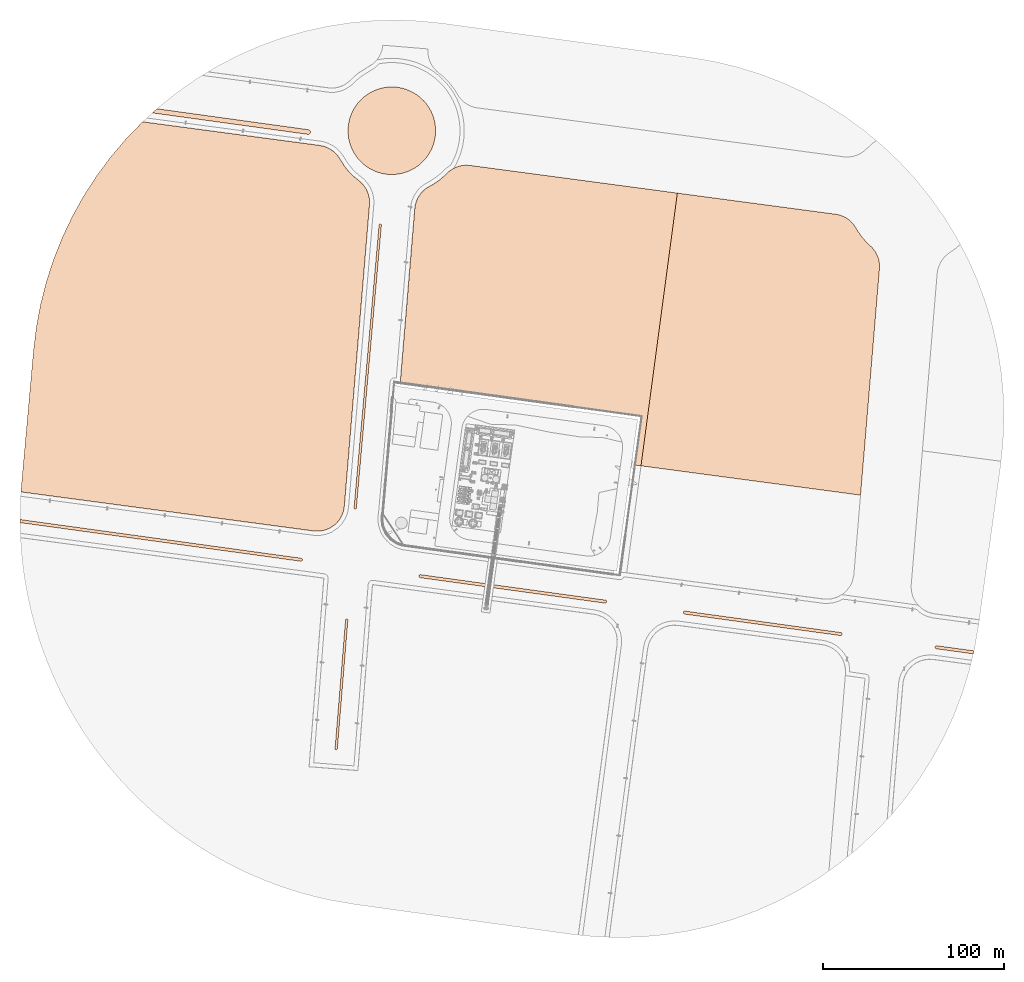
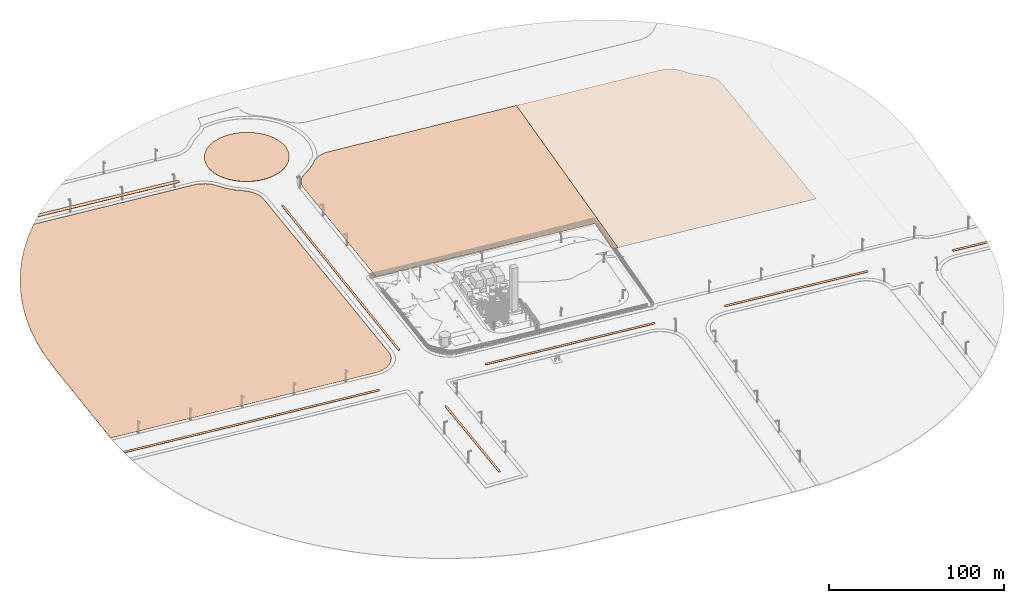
# Not in any storey, part 74 of 75: 4 geographic elements.
"""IFC4 model written with IfcOpenShell, lengths in metres."""

from ifc_helpers import new_model, si_unit, direction, origin, origin_with_axes, place, context, subcontext, project, spatial, triangles, element, save


model = new_model("IFC4")

# Units and contexts
model_context = context("Model", 3, precision=1e-05, world=origin_with_axes(), true_north=direction((0.0, 1.0)))
body_context = subcontext(model_context, "Body", "Model", "MODEL_VIEW")
ifc_project = project(units=[si_unit("AREAUNIT", "SQUARE_METRE"), si_unit("VOLUMEUNIT", "CUBIC_METRE"), si_unit("LENGTHUNIT", "METRE")], contexts=[model_context])

# Site
site_placement = place(None, origin_with_axes())
site = spatial("IfcSite", under=ifc_project, at=site_placement, Name="Parcela industrial Jinhong")

# Geographic elements
geographic_element_1_placement = place(None, origin())
element("IfcGeographicElement", 1, at=geographic_element_1_placement, inside=site, Name="Glorieta e isletas divisorias · aproximadas", ObjectType="Glorieta e isletas divisorias · aproximadas", PredefinedType="USERDEFINED", context=body_context, shape_type="Tessellation", body=[
    triangles([(-31.552922, -93.647842, -0.280071), (-31.079328, -93.495515, -0.274279), (-31.300975, -93.61878, -0.277128), (-31.995515, -93.420672, -0.284498), (-31.796812, -93.578275, -0.282659), (-32.11878, -93.199025, -0.285308), (-25.837415, -21.364691, -0.022205), (-26.347842, -21.947078, -0.029563), (-26.167215, -21.548104, -0.026445), (-26.304584, -21.761298, -0.028576), (-25.131937, -21.684082, -0.015034), (-25.461298, -21.395416, -0.018009), (-25.248104, -21.532785, -0.015952), (-30.921725, -93.296812, -0.271956), (-32.147842, -92.947078, -0.284967), (-30.852158, -93.052922, -0.270515), (-25.052158, -22.052922, -0.015111), (-31.552922, -93.647842, -0.060071), (-31.079328, -93.495515, -0.054279), (-31.300975, -93.61878, -0.057128), (-31.995515, -93.420672, -0.064498), (-31.796812, -93.578275, -0.062659), (-32.11878, -93.199025, -0.065308), (-25.837415, -21.364691, 0.197795), (-26.347842, -21.947078, 0.190437), (-26.167215, -21.548104, 0.193555), (-26.304584, -21.761298, 0.191424), (-25.131937, -21.684082, 0.204966), (-25.461298, -21.395416, 0.201991), (-25.248104, -21.532785, 0.204048), (-30.921725, -93.296812, -0.051956), (-32.147842, -92.947078, -0.064967), (-30.852158, -93.052922, -0.050515), (-25.052158, -22.052922, 0.204889)], [[1, 2, 3], [4, 1, 5], [1, 4, 6], [7, 8, 9], [8, 10, 9], [11, 7, 12], [12, 13, 11], [14, 15, 16], [1, 14, 2], [15, 1, 6], [7, 17, 8], [17, 7, 11], [16, 15, 17], [14, 1, 15], [8, 17, 15], [20, 19, 18], [22, 18, 21], [23, 21, 18], [26, 25, 24], [26, 27, 25], [29, 24, 28], [28, 30, 29], [33, 32, 31], [19, 31, 18], [23, 18, 32], [25, 34, 24], [28, 24, 34], [34, 32, 33], [32, 18, 31], [32, 34, 25], [20, 18, 3], [3, 18, 1], [19, 20, 2], [2, 20, 3], [18, 22, 1], [1, 22, 5], [22, 21, 5], [5, 21, 4], [21, 23, 4], [4, 23, 6], [26, 24, 9], [9, 24, 7], [25, 27, 8], [8, 27, 10], [27, 26, 10], [10, 26, 9], [24, 29, 7], [7, 29, 12], [30, 28, 13], [13, 28, 11], [29, 30, 12], [12, 30, 13], [31, 19, 14], [14, 19, 2], [23, 32, 6], [6, 32, 15], [32, 25, 15], [15, 25, 8], [33, 31, 16], [16, 31, 14], [28, 34, 11], [11, 34, 17], [34, 33, 17], [17, 33, 16]], closed=True),
    triangles([(299.266416, -36.580635, 3.634241), (299.784884, -36.187671, 3.641186), (300.115951, -36.167946, 3.645003), (320.702515, -39.002716, 3.871547), (320.304487, -40.663949, 3.862588), (299.322588, -37.523433, 3.632364), (299.884049, -37.852054, 3.637872), (299.570635, -37.743584, 3.634598), (299.177671, -37.225116, 3.631512), (299.157946, -36.894049, 3.632171), (299.486567, -36.332588, 3.637406), (299.266416, -36.580635, 3.854241), (299.784884, -36.187671, 3.861186), (300.115951, -36.167946, 3.865003), (320.702515, -39.002716, 4.091547), (320.304487, -40.663949, 4.082588), (299.322588, -37.523433, 3.852364), (299.884049, -37.852054, 3.857872), (299.570635, -37.743584, 3.854598), (299.177671, -37.225116, 3.851512), (299.157946, -36.894049, 3.852171), (299.486567, -36.332588, 3.857406)], [[1, 2, 3], [3, 4, 5], [6, 7, 8], [7, 6, 9], [3, 10, 1], [2, 1, 11], [7, 3, 5], [7, 9, 10], [10, 3, 7], [14, 13, 12], [16, 15, 14], [19, 18, 17], [20, 17, 18], [12, 21, 14], [22, 12, 13], [16, 14, 18], [21, 20, 18], [18, 14, 21], [13, 14, 2], [2, 14, 3], [14, 15, 3], [3, 15, 4], [15, 16, 4], [4, 16, 5], [16, 18, 5], [5, 18, 7], [19, 17, 8], [8, 17, 6], [18, 19, 7], [7, 19, 8], [17, 20, 6], [6, 20, 9], [21, 12, 10], [10, 12, 1], [20, 21, 9], [9, 21, 10], [12, 22, 1], [1, 22, 11], [22, 13, 11], [11, 13, 2]], closed=True),
    triangles([(161.115951, -17.027646, 2.115381), (160.322588, -18.383133, 2.102742), (160.486567, -17.192288, 2.107785), (160.884049, -18.711754, 2.10825), (160.570635, -18.603284, 2.104976), (160.177671, -18.084816, 2.10189), (160.157946, -17.753749, 2.102549), (160.266416, -17.440335, 2.104619), (160.784884, -17.047371, 2.111564), (247.115951, -28.869846, 3.061766), (247.842054, -29.827851, 3.067467), (247.444562, -30.436375, 3.061323), (247.623825, -29.134542, 3.066835), (247.764561, -29.340489, 3.067886), (247.839454, -29.578423, 3.068103), (247.772137, -30.067294, 3.066033), (247.635724, -30.27613, 3.063924), (246.884049, -30.553954, 3.054635), (247.133477, -30.551354, 3.057479), (247.429365, -28.978316, 3.065041), (161.115951, -17.027646, 2.335381), (160.322588, -18.383133, 2.322742), (160.486567, -17.192288, 2.327785), (160.884049, -18.711754, 2.32825), (160.570635, -18.603284, 2.324976), (160.177671, -18.084816, 2.32189), (160.157946, -17.753749, 2.322549), (160.266416, -17.440335, 2.324619), (160.784884, -17.047371, 2.331564), (247.115951, -28.869846, 3.281766), (247.842054, -29.827851, 3.287467), (247.444562, -30.436375, 3.281323), (247.623825, -29.134542, 3.286835), (247.764561, -29.340489, 3.287886), (247.839454, -29.578423, 3.288103), (247.772137, -30.067294, 3.286033), (247.635724, -30.27613, 3.283924), (246.884049, -30.553954, 3.274635), (247.133477, -30.551354, 3.277479), (247.429365, -28.978316, 3.285041)], [[1, 2, 3], [4, 5, 2], [2, 6, 7], [7, 8, 3], [3, 9, 1], [10, 11, 12], [11, 13, 14], [14, 15, 11], [11, 16, 17], [18, 12, 19], [2, 1, 4], [2, 7, 3], [4, 1, 10], [13, 11, 20], [12, 11, 17], [4, 10, 18], [11, 10, 20], [12, 18, 10], [23, 22, 21], [22, 25, 24], [27, 26, 22], [23, 28, 27], [21, 29, 23], [32, 31, 30], [34, 33, 31], [31, 35, 34], [37, 36, 31], [39, 32, 38], [24, 21, 22], [23, 27, 22], [30, 21, 24], [40, 31, 33], [37, 31, 32], [38, 30, 24], [40, 30, 31], [30, 38, 32], [25, 22, 5], [5, 22, 2], [24, 25, 4], [4, 25, 5], [22, 26, 2], [2, 26, 6], [26, 27, 6], [6, 27, 7], [28, 23, 8], [8, 23, 3], [27, 28, 7], [7, 28, 8], [29, 21, 9], [9, 21, 1], [23, 29, 3], [3, 29, 9], [21, 30, 1], [1, 30, 10], [33, 34, 13], [13, 34, 14], [35, 31, 15], [15, 31, 11], [34, 35, 14], [14, 35, 15], [31, 36, 11], [11, 36, 16], [37, 32, 17], [17, 32, 12], [36, 37, 16], [16, 37, 17], [38, 24, 18], [18, 24, 4], [32, 39, 12], [12, 39, 19], [39, 38, 19], [19, 38, 18], [30, 40, 10], [10, 40, 20], [40, 33, 20], [20, 33, 13]], closed=True),
    triangles([(14.570635, 1.500916, 0.498323), (14.486567, 2.911912, 0.501132), (14.884049, 1.392446, 0.501597), (14.177671, 2.019384, 0.495237), (14.322588, 1.721067, 0.496089), (14.266416, 2.663865, 0.497966), (14.157946, 2.350451, 0.495896), (14.784884, 3.056829, 0.504911), (15.115951, 3.076554, 0.508728), (117.623825, -11.233542, 1.636254), (117.115951, -10.968846, 1.631184), (117.429365, -11.077316, 1.634459), (117.848495, -11.760346, 1.637403), (117.797284, -11.516218, 1.637472), (117.826634, -12.008828, 1.636491), (117.371411, -12.575461, 1.629803), (117.733584, -12.240265, 1.634816), (117.577358, -12.434725, 1.63252), (117.133477, -12.650354, 1.626897), (116.884049, -12.652954, 1.624054), (14.570635, 1.500916, 0.718323), (14.486567, 2.911912, 0.721132), (14.884049, 1.392446, 0.721597), (14.177671, 2.019384, 0.715237), (14.322588, 1.721067, 0.716089), (14.266416, 2.663865, 0.717966), (14.157946, 2.350451, 0.715896), (14.784884, 3.056829, 0.724911), (15.115951, 3.076554, 0.728728), (117.623825, -11.233542, 1.856254), (117.115951, -10.968846, 1.851184), (117.429365, -11.077316, 1.854459), (117.848495, -11.760346, 1.857403), (117.797284, -11.516218, 1.857472), (117.826634, -12.008828, 1.856491), (117.371411, -12.575461, 1.849803), (117.733584, -12.240265, 1.854816), (117.577358, -12.434725, 1.85252), (117.133477, -12.650354, 1.846897), (116.884049, -12.652954, 1.844054)], [[1, 2, 3], [4, 1, 5], [6, 4, 7], [4, 6, 2], [2, 8, 9], [10, 11, 12], [13, 10, 14], [10, 13, 15], [16, 17, 18], [17, 16, 19], [9, 3, 2], [1, 4, 2], [20, 9, 11], [17, 10, 15], [10, 17, 19], [9, 20, 3], [11, 10, 20], [10, 19, 20], [23, 22, 21], [25, 21, 24], [27, 24, 26], [22, 26, 24], [29, 28, 22], [32, 31, 30], [34, 30, 33], [35, 33, 30], [38, 37, 36], [39, 36, 37], [22, 23, 29], [22, 24, 21], [31, 29, 40], [35, 30, 37], [39, 37, 30], [23, 40, 29], [40, 30, 31], [40, 39, 30], [23, 21, 3], [3, 21, 1], [21, 25, 1], [1, 25, 5], [25, 24, 5], [5, 24, 4], [26, 22, 6], [6, 22, 2], [24, 27, 4], [4, 27, 7], [27, 26, 7], [7, 26, 6], [22, 28, 2], [2, 28, 8], [28, 29, 8], [8, 29, 9], [29, 31, 9], [9, 31, 11], [32, 30, 12], [12, 30, 10], [31, 32, 11], [11, 32, 12], [30, 34, 10], [10, 34, 14], [34, 33, 14], [14, 33, 13], [33, 35, 13], [13, 35, 15], [35, 37, 15], [15, 37, 17], [38, 36, 18], [18, 36, 16], [37, 38, 17], [17, 38, 18], [36, 39, 16], [16, 39, 19], [40, 23, 20], [20, 23, 3], [39, 40, 19], [19, 40, 20]], closed=True),
    triangles([(-50.884049, 12.164754, -0.217567), (-51.115951, 10.480646, -0.224698), (-206.091964, 31.820843, -1.930127), (-206.095411, 33.537359, -1.925586), (-50.570635, 12.056284, -0.214292), (-50.376175, 11.900058, -0.212498), (-50.235439, 11.694111, -0.211447), (-50.160546, 11.456177, -0.21123), (-50.173366, 11.124772, -0.21226), (-50.266416, 10.893335, -0.213936), (-50.422642, 10.698875, -0.216231), (-50.628589, 10.558139, -0.218949), (-50.866523, 10.483246, -0.221854), (-50.884049, 12.164754, 0.002433), (-51.115951, 10.480646, -0.004698), (-206.091964, 31.820843, -1.710127), (-206.095411, 33.537359, -1.705586), (-50.570635, 12.056284, 0.005708), (-50.376175, 11.900058, 0.007502), (-50.235439, 11.694111, 0.008553), (-50.160546, 11.456177, 0.00877), (-50.173366, 11.124772, 0.00774), (-50.266416, 10.893335, 0.006064), (-50.422642, 10.698875, 0.003769), (-50.628589, 10.558139, 0.001051), (-50.866523, 10.483246, -0.001854)], [[1, 2, 3], [3, 4, 1], [1, 5, 6], [6, 7, 8], [8, 9, 10], [10, 11, 12], [2, 12, 13], [12, 6, 8], [12, 8, 10], [6, 12, 2], [6, 2, 1], [16, 15, 14], [14, 17, 16], [19, 18, 14], [21, 20, 19], [23, 22, 21], [25, 24, 23], [26, 25, 15], [21, 19, 25], [23, 21, 25], [15, 25, 19], [14, 15, 19], [15, 16, 2], [2, 16, 3], [17, 14, 4], [4, 14, 1], [16, 17, 3], [3, 17, 4], [14, 18, 1], [1, 18, 5], [18, 19, 5], [5, 19, 6], [19, 20, 6], [6, 20, 7], [20, 21, 7], [7, 21, 8], [21, 22, 8], [8, 22, 9], [22, 23, 9], [9, 23, 10], [23, 24, 10], [10, 24, 11], [24, 25, 11], [11, 25, 12], [26, 15, 13], [13, 15, 2], [25, 26, 12], [12, 26, 13]], closed=True),
    triangles([(-21.057276, 39.352528, 0.194164), (-20.582669, 39.501668, 0.199959), (-20.80514, 39.379896, 0.197104), (-21.498332, 39.582669, 0.189762), (-21.300693, 39.423733, 0.191586), (-21.647472, 40.057276, 0.189333), (-21.620104, 39.80514, 0.188971), (-7.454703, 196.598019, 0.768423), (-6.552528, 195.942724, 0.776933), (-7.664167, 196.455027, 0.765659), (-7.847472, 196.057276, 0.762513), (-7.776267, 196.300693, 0.763972), (-7.27014, 196.646205, 0.77065), (-6.629826, 196.312092, 0.77704), (-6.899307, 196.576267, 0.77468), (-20.352528, 39.942724, 0.203753), (-20.423733, 39.699307, 0.202294), (-21.057276, 39.352528, 0.414164), (-20.582669, 39.501668, 0.419959), (-20.80514, 39.379896, 0.417104), (-21.498332, 39.582669, 0.409762), (-21.300693, 39.423733, 0.411586), (-21.647472, 40.057276, 0.409333), (-21.620104, 39.80514, 0.408971), (-7.454703, 196.598019, 0.988423), (-6.552528, 195.942724, 0.996933), (-7.664167, 196.455027, 0.985659), (-7.847472, 196.057276, 0.982513), (-7.776267, 196.300693, 0.983972), (-7.27014, 196.646205, 0.99065), (-6.629826, 196.312092, 0.99704), (-6.899307, 196.576267, 0.99468), (-20.352528, 39.942724, 0.423753), (-20.423733, 39.699307, 0.422294)], [[1, 2, 3], [4, 1, 5], [6, 4, 7], [8, 9, 10], [11, 12, 10], [9, 13, 14], [13, 15, 14], [1, 16, 17], [1, 17, 2], [4, 6, 1], [10, 9, 11], [13, 9, 8], [11, 16, 6], [16, 1, 6], [16, 11, 9], [20, 19, 18], [22, 18, 21], [24, 21, 23], [27, 26, 25], [27, 29, 28], [31, 30, 26], [31, 32, 30], [34, 33, 18], [19, 34, 18], [18, 23, 21], [28, 26, 27], [25, 26, 30], [23, 33, 28], [23, 18, 33], [26, 28, 33], [20, 18, 3], [3, 18, 1], [19, 20, 2], [2, 20, 3], [18, 22, 1], [1, 22, 5], [22, 21, 5], [5, 21, 4], [21, 24, 4], [4, 24, 7], [24, 23, 7], [7, 23, 6], [27, 25, 10], [10, 25, 8], [23, 28, 6], [6, 28, 11], [29, 27, 12], [12, 27, 10], [28, 29, 11], [11, 29, 12], [25, 30, 8], [8, 30, 13], [31, 26, 14], [14, 26, 9], [30, 32, 13], [13, 32, 15], [32, 31, 15], [15, 31, 14], [26, 33, 9], [9, 33, 16], [34, 19, 17], [17, 19, 2], [33, 34, 16], [16, 34, 17]], closed=True),
    triangles([(17.394523, 232.243831, 1.146118), (11.979242, 227.649307, 1.072276), (9.903386, 226.49568, 1.045592), (7.724451, 225.551077, 1.018293), (5.463421, 224.824595, 0.990642), (3.14207, 224.323231, 0.962906), (0.782756, 224.051814, 0.935352), (-8.578835, 225.284291, 0.832181), (-1.591802, 224.012957, 0.908245), (-3.958734, 224.207034, 0.881846), (-6.295246, 224.632177, 0.85641), (-10.78751, 226.157095, 0.809394), (-12.9, 227.242185, 0.788266), (-14.89596, 228.52911, 0.769002), (-16.756169, 230.005477, 0.751787), (-18.462711, 231.657066, 0.736787), (-19.999151, 233.467973, 0.724147), (-23.448923, 239.675549, 0.70148), (-21.350693, 235.420758, 0.713988), (-22.50432, 237.496614, 0.706408), (-24.676769, 244.25793, 0.699744), (-24.175405, 241.936579, 0.699252), (-24.987043, 248.991802, 0.708847), (-24.948186, 246.617244, 0.702953), (-24.367823, 253.695246, 0.728439), (-24.792966, 251.358734, 0.717369), (-21.757815, 260.3, 0.775742), (-23.715709, 255.978835, 0.741948), (-22.842905, 258.18751, 0.757766), (-20.47089, 262.29596, 0.795703), (-18.994523, 264.156169, 0.817456), (-17.342934, 265.862711, 0.840791), (-15.532027, 267.399151, 0.865484), (-13.579242, 268.750693, 0.891297), (-11.503386, 269.90432, 0.917982), (-4.74207, 272.076769, 1.000667), (-9.324451, 270.848923, 0.945281), (-7.063421, 271.575405, 0.972931), (-0.008198, 272.387043, 1.055328), (4.695246, 271.767823, 1.107163), (-2.382756, 272.348186, 1.028221), (2.358734, 272.192966, 1.081727), (11.3, 269.157815, 1.175307), (6.978835, 271.115709, 1.131392), (9.18751, 270.242905, 1.15418), (13.29596, 267.87089, 1.194571), (15.156169, 266.394523, 1.211786), (16.862711, 264.742934, 1.226786), (18.399151, 262.932027, 1.239426), (21.848923, 256.724451, 1.262093), (19.750693, 260.979242, 1.249585), (20.90432, 258.903386, 1.257165), (23.387043, 247.408198, 1.254726), (23.076769, 252.14207, 1.263829), (23.348186, 249.782756, 1.26062), (22.767823, 242.704754, 1.235135), (23.192966, 245.041266, 1.246204), (21.242905, 238.21249, 1.205807), (22.115709, 240.421165, 1.221626), (20.157815, 236.1, 1.187831), (18.87089, 234.10404, 1.16787), (15.742934, 230.537289, 1.122782), (13.932027, 229.000849, 1.098089), (22.575405, 254.463421, 1.264322), (17.394523, 232.243831, 1.366118), (11.979242, 227.649307, 1.292276), (9.903386, 226.49568, 1.265592), (7.724451, 225.551077, 1.238293), (5.463421, 224.824595, 1.210642), (3.14207, 224.323231, 1.182906), (0.782756, 224.051814, 1.155352), (-8.578835, 225.284291, 1.052181), (-1.591802, 224.012957, 1.128245), (-3.958734, 224.207034, 1.101846), (-6.295246, 224.632177, 1.07641), (-10.78751, 226.157095, 1.029394), (-12.9, 227.242185, 1.008266), (-14.89596, 228.52911, 0.989002), (-16.756169, 230.005477, 0.971787), (-18.462711, 231.657066, 0.956787), (-19.999151, 233.467973, 0.944147), (-23.448923, 239.675549, 0.92148), (-21.350693, 235.420758, 0.933988), (-22.50432, 237.496614, 0.926408), (-24.676769, 244.25793, 0.919744), (-24.175405, 241.936579, 0.919252), (-24.987043, 248.991802, 0.928847), (-24.948186, 246.617244, 0.922953), (-24.367823, 253.695246, 0.948439), (-24.792966, 251.358734, 0.937369), (-21.757815, 260.3, 0.995742), (-23.715709, 255.978835, 0.961948), (-22.842905, 258.18751, 0.977766), (-20.47089, 262.29596, 1.015703), (-18.994523, 264.156169, 1.037456), (-17.342934, 265.862711, 1.060791), (-15.532027, 267.399151, 1.085484), (-13.579242, 268.750693, 1.111297), (-11.503386, 269.90432, 1.137982), (-4.74207, 272.076769, 1.220667), (-9.324451, 270.848923, 1.165281), (-7.063421, 271.575405, 1.192931), (-0.008198, 272.387043, 1.275328), (4.695246, 271.767823, 1.327163), (-2.382756, 272.348186, 1.248221), (2.358734, 272.192966, 1.301727), (11.3, 269.157815, 1.395307), (6.978835, 271.115709, 1.351392), (9.18751, 270.242905, 1.37418), (13.29596, 267.87089, 1.414571), (15.156169, 266.394523, 1.431786), (16.862711, 264.742934, 1.446786), (18.399151, 262.932027, 1.459426), (21.848923, 256.724451, 1.482093), (19.750693, 260.979242, 1.469585), (20.90432, 258.903386, 1.477165), (23.387043, 247.408198, 1.474726), (23.076769, 252.14207, 1.483829), (23.348186, 249.782756, 1.48062), (22.767823, 242.704754, 1.455135), (23.192966, 245.041266, 1.466204), (21.242905, 238.21249, 1.425807), (22.115709, 240.421165, 1.441626), (20.157815, 236.1, 1.407831), (18.87089, 234.10404, 1.38787), (15.742934, 230.537289, 1.342782), (13.932027, 229.000849, 1.318089), (22.575405, 254.463421, 1.484322)], [[1, 2, 3], [3, 4, 5], [5, 6, 7], [8, 9, 10], [10, 11, 8], [8, 12, 13], [13, 14, 15], [13, 16, 17], [18, 19, 20], [21, 18, 22], [23, 21, 24], [25, 23, 26], [27, 25, 28], [28, 29, 27], [27, 30, 31], [31, 32, 33], [33, 34, 35], [36, 37, 38], [39, 40, 41], [40, 39, 42], [43, 40, 44], [44, 45, 43], [43, 46, 47], [43, 48, 49], [50, 51, 52], [53, 49, 50], [53, 54, 55], [56, 53, 57], [58, 56, 59], [53, 58, 60], [60, 61, 1], [1, 62, 63], [7, 8, 5], [8, 7, 9], [27, 13, 17], [16, 13, 15], [18, 17, 19], [25, 18, 23], [18, 25, 27], [27, 31, 33], [41, 37, 36], [35, 41, 40], [49, 53, 43], [48, 43, 47], [43, 53, 60], [53, 64, 54], [53, 56, 58], [2, 1, 63], [5, 13, 40], [27, 40, 13], [23, 18, 21], [13, 5, 8], [37, 41, 35], [60, 5, 43], [50, 49, 51], [3, 60, 1], [40, 27, 33], [18, 27, 17], [43, 5, 40], [53, 50, 64], [40, 33, 35], [60, 3, 5], [67, 66, 65], [69, 68, 67], [71, 70, 69], [74, 73, 72], [72, 75, 74], [77, 76, 72], [79, 78, 77], [81, 80, 77], [84, 83, 82], [86, 82, 85], [88, 85, 87], [90, 87, 89], [92, 89, 91], [91, 93, 92], [95, 94, 91], [97, 96, 95], [99, 98, 97], [102, 101, 100], [105, 104, 103], [106, 103, 104], [108, 104, 107], [107, 109, 108], [111, 110, 107], [113, 112, 107], [116, 115, 114], [114, 113, 117], [119, 118, 117], [121, 117, 120], [123, 120, 122], [124, 122, 117], [65, 125, 124], [127, 126, 65], [69, 72, 71], [73, 71, 72], [81, 77, 91], [79, 77, 80], [83, 81, 82], [87, 82, 89], [91, 89, 82], [97, 95, 91], [100, 101, 105], [104, 105, 99], [107, 117, 113], [111, 107, 112], [124, 117, 107], [118, 128, 117], [122, 120, 117], [127, 65, 66], [104, 77, 69], [77, 104, 91], [85, 82, 87], [72, 69, 77], [99, 105, 101], [107, 69, 124], [115, 113, 114], [65, 124, 67], [97, 91, 104], [81, 91, 82], [104, 69, 107], [128, 114, 117], [99, 97, 104], [69, 67, 124], [66, 67, 2], [2, 67, 3], [67, 68, 3], [3, 68, 4], [68, 69, 4], [4, 69, 5], [69, 70, 5], [5, 70, 6], [70, 71, 6], [6, 71, 7], [71, 73, 7], [7, 73, 9], [73, 74, 9], [9, 74, 10], [75, 72, 11], [11, 72, 8], [74, 75, 10], [10, 75, 11], [72, 76, 8], [8, 76, 12], [76, 77, 12], [12, 77, 13], [77, 78, 13], [13, 78, 14], [78, 79, 14], [14, 79, 15], [79, 80, 15], [15, 80, 16], [80, 81, 16], [16, 81, 17], [81, 83, 17], [17, 83, 19], [84, 82, 20], [20, 82, 18], [83, 84, 19], [19, 84, 20], [82, 86, 18], [18, 86, 22], [86, 85, 22], [22, 85, 21], [85, 88, 21], [21, 88, 24], [88, 87, 24], [24, 87, 23], [87, 90, 23], [23, 90, 26], [90, 89, 26], [26, 89, 25], [89, 92, 25], [25, 92, 28], [93, 91, 29], [29, 91, 27], [92, 93, 28], [28, 93, 29], [91, 94, 27], [27, 94, 30], [94, 95, 30], [30, 95, 31], [95, 96, 31], [31, 96, 32], [96, 97, 32], [32, 97, 33], [97, 98, 33], [33, 98, 34], [98, 99, 34], [34, 99, 35], [99, 101, 35], [35, 101, 37], [102, 100, 38], [38, 100, 36], [101, 102, 37], [37, 102, 38], [100, 105, 36], [36, 105, 41], [105, 103, 41], [41, 103, 39], [103, 106, 39], [39, 106, 42], [106, 104, 42], [42, 104, 40], [104, 108, 40], [40, 108, 44], [109, 107, 45], [45, 107, 43], [108, 109, 44], [44, 109, 45], [107, 110, 43], [43, 110, 46], [110, 111, 46], [46, 111, 47], [111, 112, 47], [47, 112, 48], [112, 113, 48], [48, 113, 49], [113, 115, 49], [49, 115, 51], [116, 114, 52], [52, 114, 50], [115, 116, 51], [51, 116, 52], [119, 117, 55], [55, 117, 53], [118, 119, 54], [54, 119, 55], [117, 121, 53], [53, 121, 57], [121, 120, 57], [57, 120, 56], [120, 123, 56], [56, 123, 59], [123, 122, 59], [59, 122, 58], [122, 124, 58], [58, 124, 60], [125, 65, 61], [61, 65, 1], [124, 125, 60], [60, 125, 61], [65, 126, 1], [1, 126, 62], [127, 66, 63], [63, 66, 2], [126, 127, 62], [62, 127, 63], [114, 128, 50], [50, 128, 64], [128, 118, 64], [64, 118, 54]], closed=True),
    triangles([(-130.493219, 260.337464, -0.460685), (-47.177762, 246.212211, 0.44908), (-132.998796, 258.058673, -0.495258), (-46.822238, 248.787789, 0.459995), (-45.716061, 247.703718, 0.469682), (-46.342954, 248.621735, 0.465002), (-46.045623, 248.382703, 0.467746), (-45.830483, 248.067653, 0.469352), (-46.117297, 246.545623, 0.462029), (-45.712211, 247.322238, 0.468708), (-45.878265, 246.842954, 0.46554), (-46.796282, 246.216061, 0.453428), (-46.432347, 246.330483, 0.457872), (-130.493219, 260.337464, -0.240685), (-47.177762, 246.212211, 0.66908), (-132.998796, 258.058673, -0.275258), (-46.822238, 248.787789, 0.679995), (-45.716061, 247.703718, 0.689682), (-46.342954, 248.621735, 0.685002), (-46.045623, 248.382703, 0.687746), (-45.830483, 248.067653, 0.689352), (-46.117297, 246.545623, 0.682029), (-45.712211, 247.322238, 0.688708), (-45.878265, 246.842954, 0.68554), (-46.796282, 246.216061, 0.673428), (-46.432347, 246.330483, 0.677872)], [[1, 2, 3], [2, 1, 4], [5, 6, 7], [7, 8, 5], [9, 10, 11], [12, 9, 13], [4, 9, 2], [5, 4, 6], [4, 5, 10], [2, 9, 12], [10, 9, 4], [16, 15, 14], [17, 14, 15], [20, 19, 18], [18, 21, 20], [24, 23, 22], [26, 22, 25], [15, 22, 17], [19, 17, 18], [23, 18, 17], [25, 22, 15], [17, 22, 23], [16, 14, 3], [3, 14, 1], [15, 16, 2], [2, 16, 3], [14, 17, 1], [1, 17, 4], [17, 19, 4], [4, 19, 6], [19, 20, 6], [6, 20, 7], [21, 18, 8], [8, 18, 5], [20, 21, 7], [7, 21, 8], [18, 23, 5], [5, 23, 10], [24, 22, 11], [11, 22, 9], [23, 24, 10], [10, 24, 11], [25, 15, 12], [12, 15, 2], [22, 26, 9], [9, 26, 13], [26, 25, 13], [13, 25, 12]], closed=True),
])
geographic_element_2_placement = place(None, origin())
element("IfcGeographicElement", 2, at=geographic_element_2_placement, inside=site, Name="Parcela catastral próxima · 9116001QD2091N", ObjectType="Parcela catastral próxima · 9116001QD2091N", PredefinedType="USERDEFINED", context=body_context, shape_type="Tessellation", body=[
    triangles([(-27.029371, 40.779625, 0.090058), (-197.093331, 139.677351, -1.580007), (-194.714322, 152.418223, -1.518957), (-13.11022, 207.609441, 0.69349), (-191.515064, 164.978249, -1.449062), (-177.147035, 201.050888, -1.189419), (-182.712937, 189.345751, -1.283946), (-163.80233, 223.258351, -0.978409), (-40.460581, 240.050969, 0.469027), (-170.834662, 212.370935, -1.087431), (-147.698823, 243.5544, -0.741127), (-156.079573, 233.667411, -0.862813), (-138.417222, 253.130683, -0.610025), (-33.876079, 237.49274, 0.537079), (-38.637788, 239.692541, 0.488799), (-36.75018, 239.063685, 0.508587), (-31.546323, 235.484866, 0.558215), (-30.098284, 233.686964, 0.569885), (-14.834253, 215.795724, 0.695728), (-18.257393, 220.06597, 0.668194), (-16.419327, 218.178227, 0.684059), (-13.308601, 211.41502, 0.701388), (-13.91757, 213.723323, 0.700622), (-13.090083, 209.522352, 0.698823), (-43.391475, 27.140639, -0.132403), (-32.329444, 30.553755, 0.002501), (-27.478852, 38.123236, 0.077858), (-28.515368, 35.382483, 0.058758), (-30.059977, 32.911187, 0.034599), (-35.043833, 28.734706, -0.033221), (-37.424601, 27.758455, -0.0629), (-40.634778, 27.12045, -0.101108), (-205.56905, 48.771837, -1.918951), (-205.258931, 52.9119, -1.904378), (-198.642102, 126.809141, -1.631955), (-24.570312, 225.730345, 0.611518), (-26.967561, 228.716918, 0.592226), (-21.863065, 223.002732, 0.635027), (-187.508994, 177.304681, -1.370615), (-27.029371, 40.779625, 0.170058), (-197.093331, 139.677351, -1.500007), (-194.714322, 152.418223, -1.438957), (-13.11022, 207.609441, 0.77349), (-191.515064, 164.978249, -1.369062), (-177.147035, 201.050888, -1.109419), (-182.712937, 189.345751, -1.203946), (-163.80233, 223.258351, -0.898409), (-40.460581, 240.050969, 0.549027), (-170.834662, 212.370935, -1.007431), (-147.698823, 243.5544, -0.661127), (-156.079573, 233.667411, -0.782813), (-138.417222, 253.130683, -0.530025), (-33.876079, 237.49274, 0.617079), (-38.637788, 239.692541, 0.568799), (-36.75018, 239.063685, 0.588587), (-31.546323, 235.484866, 0.638215), (-30.098284, 233.686964, 0.649885), (-14.834253, 215.795724, 0.775728), (-18.257393, 220.06597, 0.748194), (-16.419327, 218.178227, 0.764059), (-13.308601, 211.41502, 0.781388), (-13.91757, 213.723323, 0.780622), (-13.090083, 209.522352, 0.778823), (-43.391475, 27.140639, -0.052403), (-32.329444, 30.553755, 0.082501), (-27.478852, 38.123236, 0.157858), (-28.515368, 35.382483, 0.138758), (-30.059977, 32.911187, 0.114599), (-35.043833, 28.734706, 0.046779), (-37.424601, 27.758455, 0.0171), (-40.634778, 27.12045, -0.021108), (-205.56905, 48.771837, -1.838951), (-205.258931, 52.9119, -1.824378), (-198.642102, 126.809141, -1.551955), (-24.570312, 225.730345, 0.691518), (-26.967561, 228.716918, 0.672226), (-21.863065, 223.002732, 0.715027), (-187.508994, 177.304681, -1.290615)], [[1, 2, 3], [4, 3, 5], [6, 4, 7], [8, 9, 10], [11, 9, 12], [9, 11, 13], [14, 9, 15], [15, 16, 14], [14, 17, 18], [19, 20, 21], [22, 19, 23], [19, 22, 24], [25, 1, 26], [1, 27, 28], [1, 29, 26], [26, 30, 31], [31, 32, 25], [25, 33, 34], [1, 35, 2], [36, 9, 37], [12, 9, 8], [18, 9, 14], [9, 18, 37], [19, 24, 20], [20, 24, 4], [29, 1, 28], [26, 31, 25], [35, 25, 34], [4, 9, 36], [10, 4, 6], [20, 4, 38], [35, 1, 25], [39, 4, 5], [7, 4, 39], [38, 4, 36], [3, 4, 1], [9, 4, 10], [42, 41, 40], [44, 42, 43], [46, 43, 45], [49, 48, 47], [51, 48, 50], [52, 50, 48], [54, 48, 53], [53, 55, 54], [57, 56, 53], [60, 59, 58], [62, 58, 61], [63, 61, 58], [65, 40, 64], [67, 66, 40], [65, 68, 40], [70, 69, 65], [64, 71, 70], [73, 72, 64], [41, 74, 40], [76, 48, 75], [47, 48, 51], [53, 48, 57], [76, 57, 48], [59, 63, 58], [43, 63, 59], [67, 40, 68], [64, 70, 65], [73, 64, 74], [75, 48, 43], [45, 43, 49], [77, 43, 59], [64, 40, 74], [44, 43, 78], [78, 43, 46], [75, 43, 77], [40, 43, 42], [49, 43, 48], [41, 42, 2], [2, 42, 3], [43, 40, 4], [4, 40, 1], [42, 44, 3], [3, 44, 5], [46, 45, 7], [7, 45, 6], [45, 49, 6], [6, 49, 10], [49, 47, 10], [10, 47, 8], [47, 51, 8], [8, 51, 12], [51, 50, 12], [12, 50, 11], [52, 48, 13], [13, 48, 9], [50, 52, 11], [11, 52, 13], [48, 54, 9], [9, 54, 15], [55, 53, 16], [16, 53, 14], [54, 55, 15], [15, 55, 16], [53, 56, 14], [14, 56, 17], [56, 57, 17], [17, 57, 18], [60, 58, 21], [21, 58, 19], [59, 60, 20], [20, 60, 21], [58, 62, 19], [19, 62, 23], [62, 61, 23], [23, 61, 22], [63, 43, 24], [24, 43, 4], [61, 63, 22], [22, 63, 24], [40, 66, 1], [1, 66, 27], [66, 67, 27], [27, 67, 28], [68, 65, 29], [29, 65, 26], [67, 68, 28], [28, 68, 29], [65, 69, 26], [26, 69, 30], [69, 70, 30], [30, 70, 31], [71, 64, 32], [32, 64, 25], [70, 71, 31], [31, 71, 32], [64, 72, 25], [25, 72, 33], [72, 73, 33], [33, 73, 34], [74, 41, 35], [35, 41, 2], [73, 74, 34], [34, 74, 35], [57, 76, 18], [18, 76, 37], [76, 75, 37], [37, 75, 36], [77, 59, 38], [38, 59, 20], [75, 77, 36], [36, 77, 38], [44, 78, 5], [5, 78, 39], [78, 46, 39], [39, 46, 7]], closed=True),
])
geographic_element_3_placement = place(None, origin())
element("IfcGeographicElement", 3, at=geographic_element_3_placement, inside=site, Name="Parcela catastral próxima · 9516101QD2091N", ObjectType="Parcela catastral próxima · 9516101QD2091N", PredefinedType="USERDEFINED", context=body_context, shape_type="Tessellation", body=[
    triangles([(41.99, 229.1, 1.377426), (3.850358, 108.908225, 0.623003), (11.950689, 206.007722, 0.974206), (16.999132, 215.468501, 1.05686), (12.53816, 208.684484, 0.988029), (13.76062, 211.517936, 1.009491), (15.483469, 213.97265, 1.035633), (18.613039, 216.694712, 1.078485), (21.95312, 218.565641, 1.12146), (33.431258, 227.429161, 1.275639), (30.731926, 225.65105, 1.240198), (32.801416, 227.103944, 1.267609), (33.484876, 227.511475, 1.276468), (34.34, 227.95, 1.287363), (36.32, 228.65, 1.311747), (38.58, 229.09, 1.338621), (40.34, 229.19, 1.358903), (137.245324, 90.518764, 2.090889), (136.79, 63.17, 2.012737), (133.535365, 63.603951, 1.976884), (156.88, 213.77, 2.643038), (25.049141, 220.619554, 1.162148), (27.775629, 222.834885, 1.199065), (41.99, 229.1, 1.457426), (3.850358, 108.908225, 0.703003), (11.950689, 206.007722, 1.054206), (16.999132, 215.468501, 1.13686), (12.53816, 208.684484, 1.068029), (13.76062, 211.517936, 1.089491), (15.483469, 213.97265, 1.115633), (18.613039, 216.694712, 1.158485), (21.95312, 218.565641, 1.20146), (33.431258, 227.429161, 1.355639), (30.731926, 225.65105, 1.320198), (32.801416, 227.103944, 1.347609), (33.484876, 227.511475, 1.356468), (34.34, 227.95, 1.367363), (36.32, 228.65, 1.391747), (38.58, 229.09, 1.418621), (40.34, 229.19, 1.438903), (137.245324, 90.518764, 2.170889), (136.79, 63.17, 2.092737), (133.535365, 63.603951, 2.056884), (156.88, 213.77, 2.723038), (25.049141, 220.619554, 1.242148), (27.775629, 222.834885, 1.279065)], [[1, 2, 3], [4, 5, 6], [6, 7, 4], [3, 8, 9], [10, 11, 12], [10, 13, 14], [10, 15, 16], [10, 17, 1], [18, 19, 20], [4, 3, 5], [3, 4, 8], [1, 11, 10], [15, 10, 14], [18, 1, 21], [19, 18, 21], [22, 3, 9], [11, 1, 23], [17, 10, 16], [1, 22, 23], [2, 1, 18], [22, 1, 3], [26, 25, 24], [29, 28, 27], [27, 30, 29], [32, 31, 26], [35, 34, 33], [37, 36, 33], [39, 38, 33], [24, 40, 33], [43, 42, 41], [28, 26, 27], [31, 27, 26], [33, 34, 24], [37, 33, 38], [44, 24, 41], [44, 41, 42], [32, 26, 45], [46, 24, 34], [39, 33, 40], [46, 45, 24], [41, 24, 25], [26, 24, 45], [25, 26, 2], [2, 26, 3], [26, 28, 3], [3, 28, 5], [28, 29, 5], [5, 29, 6], [30, 27, 7], [7, 27, 4], [29, 30, 6], [6, 30, 7], [27, 31, 4], [4, 31, 8], [31, 32, 8], [8, 32, 9], [35, 33, 12], [12, 33, 10], [34, 35, 11], [11, 35, 12], [33, 36, 10], [10, 36, 13], [36, 37, 13], [13, 37, 14], [37, 38, 14], [14, 38, 15], [38, 39, 15], [15, 39, 16], [40, 24, 17], [17, 24, 1], [39, 40, 16], [16, 40, 17], [41, 25, 18], [18, 25, 2], [43, 41, 20], [20, 41, 18], [42, 43, 19], [19, 43, 20], [24, 44, 1], [1, 44, 21], [44, 42, 21], [21, 42, 19], [32, 45, 9], [9, 45, 22], [46, 34, 23], [23, 34, 11], [45, 46, 22], [22, 46, 23]], closed=True),
])
geographic_element_4_placement = place(None, origin())
element("IfcGeographicElement", 4, at=geographic_element_4_placement, inside=site, Name="Parcela catastral próxima · 9516102QD2091N", ObjectType="Parcela catastral próxima · 9516102QD2091N", PredefinedType="USERDEFINED", context=body_context, shape_type="Tessellation", body=[
    triangles([(244.38, 202.1, 3.60694), (246.64, 201.62, 3.63136), (248.79, 200.8, 3.653622), (250.25, 200.01, 3.668117), (251.78, 198.93, 3.682634), (253.32, 197.52, 3.696384), (254.77, 195.71, 3.708044), (268.12, 176.86, 3.809562), (264.61, 183.5, 3.787364), (266.21, 181.41, 3.799983), (267.29, 179.37, 3.806821), (268.46, 174.8, 3.807932), (268.48, 172.27, 3.801409), (258.03, 46.98, 3.348266), (136.79, 63.17, 2.012737), (156.88, 213.77, 2.643038), (256.85, 192.27, 3.722519), (259.01, 189.28, 3.739104), (261.19, 186.8, 3.757278), (244.38, 202.1, 3.68694), (246.64, 201.62, 3.71136), (248.79, 200.8, 3.733622), (250.25, 200.01, 3.748117), (251.78, 198.93, 3.762634), (253.32, 197.52, 3.776384), (254.77, 195.71, 3.788044), (268.12, 176.86, 3.889562), (264.61, 183.5, 3.867364), (266.21, 181.41, 3.879983), (267.29, 179.37, 3.886821), (268.46, 174.8, 3.887932), (268.48, 172.27, 3.881409), (258.03, 46.98, 3.428266), (136.79, 63.17, 2.092737), (156.88, 213.77, 2.723038), (256.85, 192.27, 3.802519), (259.01, 189.28, 3.819104), (261.19, 186.8, 3.837278)], [[1, 2, 3], [3, 4, 5], [5, 6, 7], [8, 9, 10], [10, 11, 8], [8, 12, 13], [13, 14, 15], [13, 16, 1], [1, 3, 5], [1, 7, 17], [13, 9, 8], [16, 13, 15], [7, 1, 5], [1, 18, 13], [9, 13, 19], [18, 1, 17], [19, 13, 18], [22, 21, 20], [24, 23, 22], [26, 25, 24], [29, 28, 27], [27, 30, 29], [32, 31, 27], [34, 33, 32], [20, 35, 32], [24, 22, 20], [36, 26, 20], [27, 28, 32], [34, 32, 35], [24, 20, 26], [32, 37, 20], [38, 32, 28], [36, 20, 37], [37, 32, 38], [20, 21, 1], [1, 21, 2], [21, 22, 2], [2, 22, 3], [22, 23, 3], [3, 23, 4], [23, 24, 4], [4, 24, 5], [24, 25, 5], [5, 25, 6], [25, 26, 6], [6, 26, 7], [28, 29, 9], [9, 29, 10], [30, 27, 11], [11, 27, 8], [29, 30, 10], [10, 30, 11], [27, 31, 8], [8, 31, 12], [31, 32, 12], [12, 32, 13], [32, 33, 13], [13, 33, 14], [33, 34, 14], [14, 34, 15], [35, 20, 16], [16, 20, 1], [34, 35, 15], [15, 35, 16], [26, 36, 7], [7, 36, 17], [36, 37, 17], [17, 37, 18], [38, 28, 19], [19, 28, 9], [37, 38, 18], [18, 38, 19]], closed=True),
])

save(model, "model.ifc")
